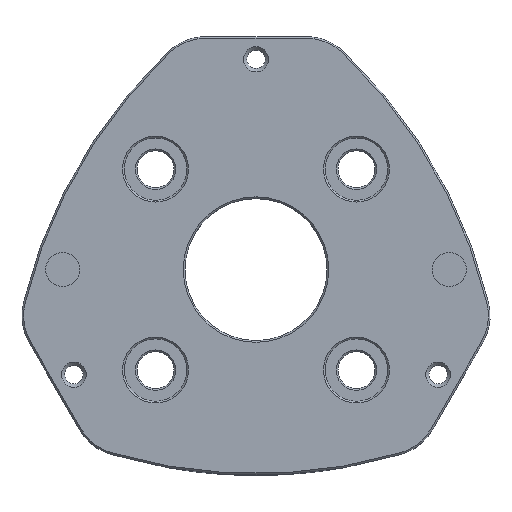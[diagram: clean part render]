
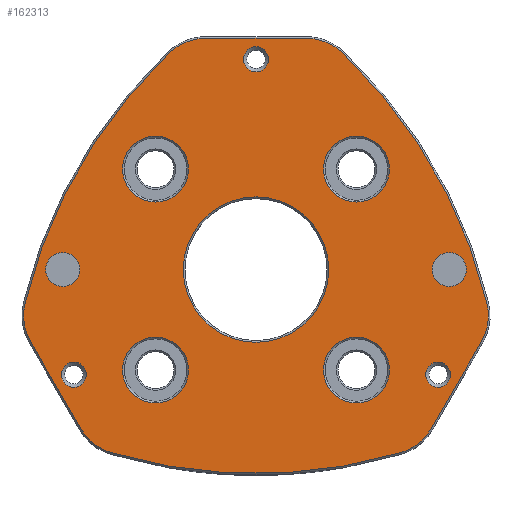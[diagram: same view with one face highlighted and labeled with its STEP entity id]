
A CAD part, top view. The second image highlights one B-rep face of the part: STEP entity #162313.
In plain terms, the highlighted planar face has unit normal (0, 0, 1).
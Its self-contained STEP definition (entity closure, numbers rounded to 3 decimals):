
#162087=CARTESIAN_POINT('',(12.8,0.,10.0));
#162088=VERTEX_POINT('',#162087);
#162089=CARTESIAN_POINT('',(0.0,0.0,10.0));
#162090=DIRECTION('',(0.0,0.0,1.0));
#162091=DIRECTION('',(-1.0,0.0,0.0));
#162092=AXIS2_PLACEMENT_3D('',#162089,#162090,#162091);
#162093=CIRCLE('',#162092,12.8);
#162094=EDGE_CURVE('',#162088,#162088,#162093,.T.);
#162099=CARTESIAN_POINT('',(0.,0.,10.0));
#162100=DIRECTION('',(0.0,0.0,1.0));
#162101=DIRECTION('',(1.0,0.0,0.0));
#162102=AXIS2_PLACEMENT_3D('',#162099,#162100,#162101);
#162103=PLANE('',#162102);
#162104=CARTESIAN_POINT('',(39.663,-12.702,10.0));
#162105=VERTEX_POINT('',#162104);
#162106=CARTESIAN_POINT('',(30.832,-27.998,10.0));
#162107=VERTEX_POINT('',#162106);
#162108=CARTESIAN_POINT('',(39.663,-12.702,10.0));
#162109=DIRECTION('',(-0.5,-0.866,0.0));
#162110=VECTOR('',#162109,17.663);
#162111=LINE('',#162108,#162110);
#162112=EDGE_CURVE('',#162105,#162107,#162111,.T.);
#162113=ORIENTED_EDGE('',*,*,#162112,.F.);
#162114=CARTESIAN_POINT('',(40.641,-5.954,10.0));
#162115=VERTEX_POINT('',#162114);
#162116=CARTESIAN_POINT('',(31.695,-8.102,10.0));
#162117=DIRECTION('',(0.0,0.0,-1.));
#162118=DIRECTION('',(0.99,-0.143,0.0));
#162119=AXIS2_PLACEMENT_3D('',#162116,#162117,#162118);
#162120=CIRCLE('',#162119,9.2);
#162121=EDGE_CURVE('',#162115,#162105,#162120,.T.);
#162122=ORIENTED_EDGE('',*,*,#162121,.F.);
#162123=CARTESIAN_POINT('',(15.164,38.174,10.0));
#162124=VERTEX_POINT('',#162123);
#162125=CARTESIAN_POINT('',(-46.58,-26.893,10.0));
#162126=DIRECTION('',(0.0,0.0,-1.0));
#162127=DIRECTION('',(0.982,0.191,0.0));
#162128=AXIS2_PLACEMENT_3D('',#162125,#162126,#162127);
#162129=CIRCLE('',#162128,89.7);
#162130=EDGE_CURVE('',#162124,#162115,#162129,.T.);
#162131=ORIENTED_EDGE('',*,*,#162130,.F.);
#162132=CARTESIAN_POINT('',(8.831,40.7,10.0));
#162133=VERTEX_POINT('',#162132);
#162134=CARTESIAN_POINT('',(8.831,31.5,10.0));
#162135=DIRECTION('',(0.0,0.0,-1.));
#162136=DIRECTION('',(0.371,0.929,0.0));
#162137=AXIS2_PLACEMENT_3D('',#162134,#162135,#162136);
#162138=CIRCLE('',#162137,9.2);
#162139=EDGE_CURVE('',#162133,#162124,#162138,.T.);
#162140=ORIENTED_EDGE('',*,*,#162139,.F.);
#162141=CARTESIAN_POINT('',(-8.831,40.7,10.0));
#162142=VERTEX_POINT('',#162141);
#162143=CARTESIAN_POINT('',(-8.831,40.7,10.0));
#162144=DIRECTION('',(1.0,0.0,0.0));
#162145=VECTOR('',#162144,17.663);
#162146=LINE('',#162143,#162145);
#162147=EDGE_CURVE('',#162142,#162133,#162146,.T.);
#162148=ORIENTED_EDGE('',*,*,#162147,.F.);
#162149=CARTESIAN_POINT('',(-15.164,38.174,10.0));
#162150=VERTEX_POINT('',#162149);
#162151=CARTESIAN_POINT('',(-8.831,31.5,10.0));
#162152=DIRECTION('',(0.0,0.0,-1.0));
#162153=DIRECTION('',(-0.371,0.929,0.0));
#162154=AXIS2_PLACEMENT_3D('',#162151,#162152,#162153);
#162155=CIRCLE('',#162154,9.2);
#162156=EDGE_CURVE('',#162150,#162142,#162155,.T.);
#162157=ORIENTED_EDGE('',*,*,#162156,.F.);
#162158=CARTESIAN_POINT('',(-40.641,-5.954,10.0));
#162159=VERTEX_POINT('',#162158);
#162160=CARTESIAN_POINT('',(46.58,-26.893,10.0));
#162161=DIRECTION('',(0.0,0.0,-1.));
#162162=DIRECTION('',(-0.656,0.754,0.0));
#162163=AXIS2_PLACEMENT_3D('',#162160,#162161,#162162);
#162164=CIRCLE('',#162163,89.7);
#162165=EDGE_CURVE('',#162159,#162150,#162164,.T.);
#162166=ORIENTED_EDGE('',*,*,#162165,.F.);
#162167=CARTESIAN_POINT('',(-39.663,-12.702,10.0));
#162168=VERTEX_POINT('',#162167);
#162169=CARTESIAN_POINT('',(-31.695,-8.102,10.0));
#162170=DIRECTION('',(0.0,0.0,-1.));
#162171=DIRECTION('',(-0.99,-0.143,0.0));
#162172=AXIS2_PLACEMENT_3D('',#162169,#162170,#162171);
#162173=CIRCLE('',#162172,9.2);
#162174=EDGE_CURVE('',#162168,#162159,#162173,.T.);
#162175=ORIENTED_EDGE('',*,*,#162174,.F.);
#162176=CARTESIAN_POINT('',(-30.832,-27.998,10.0));
#162177=VERTEX_POINT('',#162176);
#162178=CARTESIAN_POINT('',(-30.832,-27.998,10.0));
#162179=DIRECTION('',(-0.5,0.866,0.0));
#162180=VECTOR('',#162179,17.663);
#162181=LINE('',#162178,#162180);
#162182=EDGE_CURVE('',#162177,#162168,#162181,.T.);
#162183=ORIENTED_EDGE('',*,*,#162182,.F.);
#162184=CARTESIAN_POINT('',(-25.477,-32.219,10.0));
#162185=VERTEX_POINT('',#162184);
#162186=CARTESIAN_POINT('',(-22.864,-23.398,10.0));
#162187=DIRECTION('',(0.0,0.0,-1.));
#162188=DIRECTION('',(-0.619,-0.785,0.0));
#162189=AXIS2_PLACEMENT_3D('',#162186,#162187,#162188);
#162190=CIRCLE('',#162189,9.2);
#162191=EDGE_CURVE('',#162185,#162177,#162190,.T.);
#162192=ORIENTED_EDGE('',*,*,#162191,.F.);
#162193=CARTESIAN_POINT('',(25.477,-32.219,10.0));
#162194=VERTEX_POINT('',#162193);
#162195=CARTESIAN_POINT('',(0.0,53.787,10.0));
#162196=DIRECTION('',(0.0,0.0,-1.0));
#162197=DIRECTION('',(-0.325,-0.946,0.0));
#162198=AXIS2_PLACEMENT_3D('',#162195,#162196,#162197);
#162199=CIRCLE('',#162198,89.7);
#162200=EDGE_CURVE('',#162194,#162185,#162199,.T.);
#162201=ORIENTED_EDGE('',*,*,#162200,.F.);
#162202=CARTESIAN_POINT('',(22.864,-23.398,10.0));
#162203=DIRECTION('',(0.0,0.0,-1.0));
#162204=DIRECTION('',(0.619,-0.785,0.0));
#162205=AXIS2_PLACEMENT_3D('',#162202,#162203,#162204);
#162206=CIRCLE('',#162205,9.2);
#162207=EDGE_CURVE('',#162107,#162194,#162206,.T.);
#162208=ORIENTED_EDGE('',*,*,#162207,.F.);
#162209=EDGE_LOOP('',(#162113,#162122,#162131,#162140,#162148,#162157,#162166,#162175,#162183,#162192,#162201,#162208));
#162210=FACE_OUTER_BOUND('',#162209,.T.);
#162211=CARTESIAN_POINT('',(23.478,-17.678,10.0));
#162212=VERTEX_POINT('',#162211);
#162213=CARTESIAN_POINT('',(17.678,-17.678,10.0));
#162214=DIRECTION('',(0.0,0.0,1.0));
#162215=DIRECTION('',(-1.0,0.0,0.0));
#162216=AXIS2_PLACEMENT_3D('',#162213,#162214,#162215);
#162217=CIRCLE('',#162216,5.8);
#162218=EDGE_CURVE('',#162212,#162212,#162217,.T.);
#162219=ORIENTED_EDGE('',*,*,#162218,.F.);
#162220=EDGE_LOOP('',(#162219));
#162221=FACE_BOUND('',#162220,.T.);
#162222=CARTESIAN_POINT('',(-11.878,17.678,10.0));
#162223=VERTEX_POINT('',#162222);
#162224=CARTESIAN_POINT('',(-17.678,17.678,10.0));
#162225=DIRECTION('',(0.0,0.0,1.0));
#162226=DIRECTION('',(-1.0,0.0,0.0));
#162227=AXIS2_PLACEMENT_3D('',#162224,#162225,#162226);
#162228=CIRCLE('',#162227,5.8);
#162229=EDGE_CURVE('',#162223,#162223,#162228,.T.);
#162230=ORIENTED_EDGE('',*,*,#162229,.F.);
#162231=EDGE_LOOP('',(#162230));
#162232=FACE_BOUND('',#162231,.T.);
#162233=CARTESIAN_POINT('',(37.0,0.0,10.0));
#162234=VERTEX_POINT('',#162233);
#162235=CARTESIAN_POINT('',(34.0,0.0,10.0));
#162236=DIRECTION('',(0.0,0.0,-1.0));
#162237=DIRECTION('',(1.0,0.0,0.0));
#162238=AXIS2_PLACEMENT_3D('',#162235,#162236,#162237);
#162239=CIRCLE('',#162238,3.);
#162240=EDGE_CURVE('',#162234,#162234,#162239,.T.);
#162241=ORIENTED_EDGE('',*,*,#162240,.T.);
#162242=EDGE_LOOP('',(#162241));
#162243=FACE_BOUND('',#162242,.T.);
#162244=CARTESIAN_POINT('',(-31.,0.0,10.0));
#162245=VERTEX_POINT('',#162244);
#162246=CARTESIAN_POINT('',(-34.0,0.0,10.0));
#162247=DIRECTION('',(0.0,0.0,-1.0));
#162248=DIRECTION('',(1.0,0.0,0.0));
#162249=AXIS2_PLACEMENT_3D('',#162246,#162247,#162248);
#162250=CIRCLE('',#162249,3.);
#162251=EDGE_CURVE('',#162245,#162245,#162250,.T.);
#162252=ORIENTED_EDGE('',*,*,#162251,.T.);
#162253=EDGE_LOOP('',(#162252));
#162254=FACE_BOUND('',#162253,.T.);
#162255=CARTESIAN_POINT('',(34.243,-18.5,10.0));
#162256=VERTEX_POINT('',#162255);
#162257=CARTESIAN_POINT('',(32.043,-18.5,10.0));
#162258=DIRECTION('',(0.0,0.0,-1.0));
#162259=DIRECTION('',(1.0,0.0,0.0));
#162260=AXIS2_PLACEMENT_3D('',#162257,#162258,#162259);
#162261=CIRCLE('',#162260,2.2);
#162262=EDGE_CURVE('',#162256,#162256,#162261,.T.);
#162263=ORIENTED_EDGE('',*,*,#162262,.T.);
#162264=EDGE_LOOP('',(#162263));
#162265=FACE_BOUND('',#162264,.T.);
#162266=CARTESIAN_POINT('',(-29.843,-18.5,10.0));
#162267=VERTEX_POINT('',#162266);
#162268=CARTESIAN_POINT('',(-32.043,-18.5,10.0));
#162269=DIRECTION('',(0.0,0.0,-1.0));
#162270=DIRECTION('',(1.0,0.0,0.0));
#162271=AXIS2_PLACEMENT_3D('',#162268,#162269,#162270);
#162272=CIRCLE('',#162271,2.2);
#162273=EDGE_CURVE('',#162267,#162267,#162272,.T.);
#162274=ORIENTED_EDGE('',*,*,#162273,.T.);
#162275=EDGE_LOOP('',(#162274));
#162276=FACE_BOUND('',#162275,.T.);
#162277=CARTESIAN_POINT('',(2.2,37.0,10.0));
#162278=VERTEX_POINT('',#162277);
#162279=CARTESIAN_POINT('',(0.0,37.0,10.0));
#162280=DIRECTION('',(0.0,0.0,-1.0));
#162281=DIRECTION('',(1.0,0.0,0.0));
#162282=AXIS2_PLACEMENT_3D('',#162279,#162280,#162281);
#162283=CIRCLE('',#162282,2.2);
#162284=EDGE_CURVE('',#162278,#162278,#162283,.T.);
#162285=ORIENTED_EDGE('',*,*,#162284,.T.);
#162286=EDGE_LOOP('',(#162285));
#162287=FACE_BOUND('',#162286,.T.);
#162288=CARTESIAN_POINT('',(23.478,17.678,10.0));
#162289=VERTEX_POINT('',#162288);
#162290=CARTESIAN_POINT('',(17.678,17.678,10.0));
#162291=DIRECTION('',(0.0,0.0,1.0));
#162292=DIRECTION('',(-1.0,0.0,0.0));
#162293=AXIS2_PLACEMENT_3D('',#162290,#162291,#162292);
#162294=CIRCLE('',#162293,5.8);
#162295=EDGE_CURVE('',#162289,#162289,#162294,.T.);
#162296=ORIENTED_EDGE('',*,*,#162295,.F.);
#162297=EDGE_LOOP('',(#162296));
#162298=FACE_BOUND('',#162297,.T.);
#162299=CARTESIAN_POINT('',(-11.878,-17.678,10.0));
#162300=VERTEX_POINT('',#162299);
#162301=CARTESIAN_POINT('',(-17.678,-17.678,10.0));
#162302=DIRECTION('',(0.0,0.0,1.0));
#162303=DIRECTION('',(-1.0,0.0,0.0));
#162304=AXIS2_PLACEMENT_3D('',#162301,#162302,#162303);
#162305=CIRCLE('',#162304,5.8);
#162306=EDGE_CURVE('',#162300,#162300,#162305,.T.);
#162307=ORIENTED_EDGE('',*,*,#162306,.F.);
#162308=EDGE_LOOP('',(#162307));
#162309=FACE_BOUND('',#162308,.T.);
#162310=ORIENTED_EDGE('',*,*,#162094,.F.);
#162311=EDGE_LOOP('',(#162310));
#162312=FACE_BOUND('',#162311,.T.);
#162313=ADVANCED_FACE('',(#162210,#162221,#162232,#162243,#162254,#162265,#162276,#162287,#162298,#162309,#162312),#162103,.T.);
